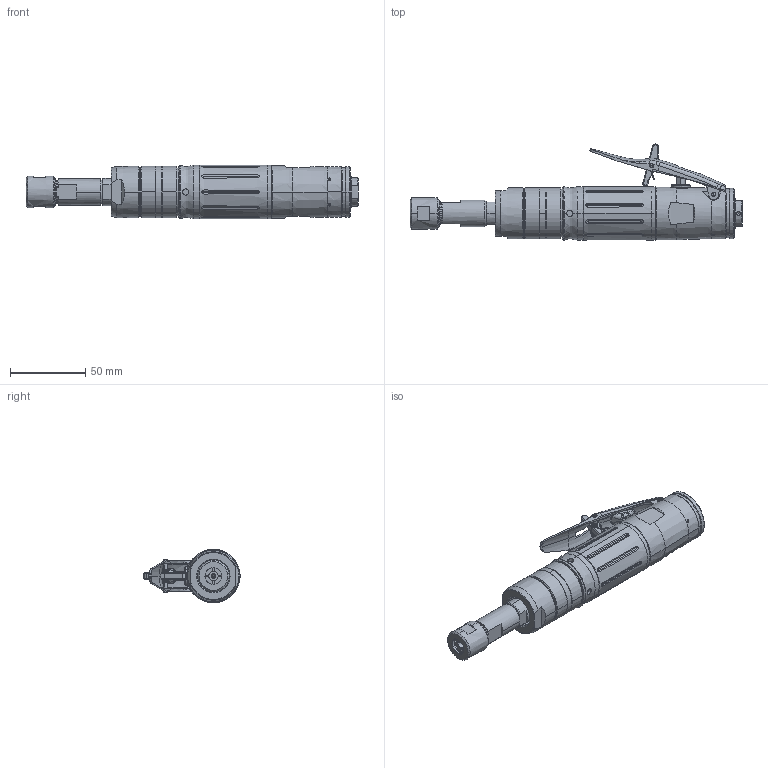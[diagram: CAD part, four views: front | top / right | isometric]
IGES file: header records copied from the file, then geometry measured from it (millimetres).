
Start section:  PTC IGES file: 6151761150.igs
Global section: file name: 6151761150.igs; native system: Creo Parametric by PTC Inc.; preprocessor: 2017020; author: greextsd; organization: Unknown; date: 20170515.170916; units: millimetre
Bounding box: 220.5 x 63.82 x 35.4 mm (x, y, z)
Volume: 95755.8 mm3; surface area: 63889.2 mm2
Topology: 3 solids, 4 shells, 1347 faces, 3514 edges, 2112 vertices
Faces by surface type: revolution 888, bspline 459
